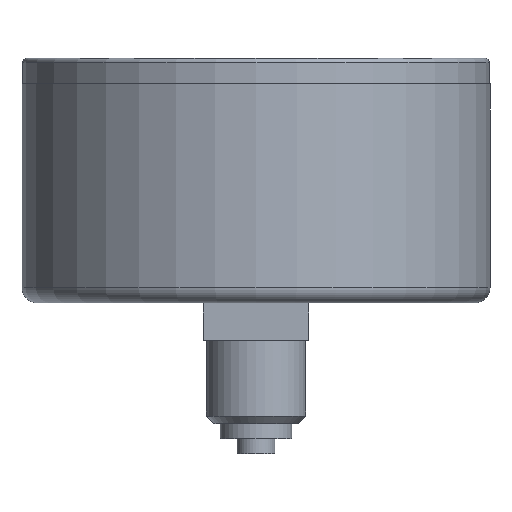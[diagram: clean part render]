
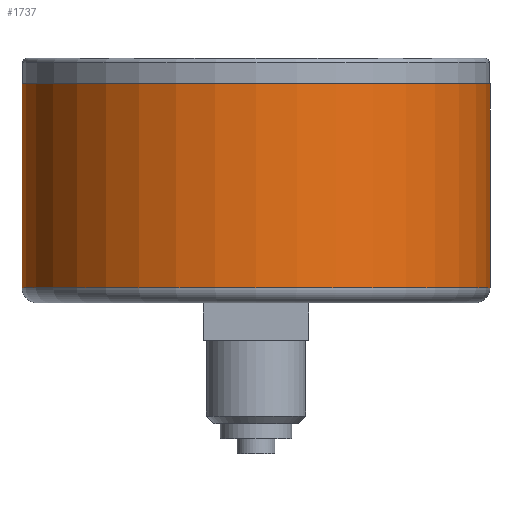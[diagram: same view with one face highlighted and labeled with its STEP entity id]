
A CAD part, front view. The second image highlights one B-rep face of the part: STEP entity #1737.
In plain terms, the highlighted cylindrical face has radius 31 mm (diameter 62 mm), a full revolution.
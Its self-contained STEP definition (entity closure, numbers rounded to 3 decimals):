
#39=CYLINDRICAL_SURFACE('',#1906,31.);
#141=FACE_OUTER_BOUND('',#245,.T.);
#245=EDGE_LOOP('',(#1527,#1528,#1529,#1530,#1531,#1532));
#304=CIRCLE('',#1901,31.);
#308=CIRCLE('',#1905,31.);
#309=CIRCLE('',#1907,31.);
#310=CIRCLE('',#1908,31.);
#492=LINE('',#2893,#670);
#670=VECTOR('',#2389,31.);
#825=VERTEX_POINT('',#2879);
#826=VERTEX_POINT('',#2880);
#829=VERTEX_POINT('',#2889);
#830=VERTEX_POINT('',#2890);
#1062=EDGE_CURVE('',#825,#826,#304,.T.);
#1066=EDGE_CURVE('',#826,#825,#308,.T.);
#1067=EDGE_CURVE('',#829,#830,#309,.T.);
#1068=EDGE_CURVE('',#830,#829,#310,.T.);
#1069=EDGE_CURVE('',#830,#826,#492,.T.);
#1527=ORIENTED_EDGE('',*,*,#1067,.F.);
#1528=ORIENTED_EDGE('',*,*,#1068,.F.);
#1529=ORIENTED_EDGE('',*,*,#1069,.T.);
#1530=ORIENTED_EDGE('',*,*,#1062,.F.);
#1531=ORIENTED_EDGE('',*,*,#1066,.F.);
#1532=ORIENTED_EDGE('',*,*,#1069,.F.);
#1737=ADVANCED_FACE('',(#141),#39,.T.);
#1901=AXIS2_PLACEMENT_3D('',#2881,#2373,#2374);
#1905=AXIS2_PLACEMENT_3D('',#2887,#2381,#2382);
#1906=AXIS2_PLACEMENT_3D('',#2888,#2383,#2384);
#1907=AXIS2_PLACEMENT_3D('',#2891,#2385,#2386);
#1908=AXIS2_PLACEMENT_3D('',#2892,#2387,#2388);
#2373=DIRECTION('center_axis',(0.,0.,-1.));
#2374=DIRECTION('ref_axis',(-1.,0.,0.));
#2381=DIRECTION('center_axis',(0.,0.,-1.));
#2382=DIRECTION('ref_axis',(-1.,0.,0.));
#2383=DIRECTION('center_axis',(0.,0.,1.));
#2384=DIRECTION('ref_axis',(1.,0.,0.));
#2385=DIRECTION('center_axis',(0.,0.,1.));
#2386=DIRECTION('ref_axis',(1.,0.,0.));
#2387=DIRECTION('center_axis',(0.,0.,1.));
#2388=DIRECTION('ref_axis',(1.,0.,0.));
#2389=DIRECTION('',(0.,0.,-1.));
#2879=CARTESIAN_POINT('',(31.,0.,2.));
#2880=CARTESIAN_POINT('',(-31.,0.,2.));
#2881=CARTESIAN_POINT('Origin',(0.,0.,2.));
#2887=CARTESIAN_POINT('Origin',(0.,0.,2.));
#2888=CARTESIAN_POINT('Origin',(0.,0.,0.));
#2889=CARTESIAN_POINT('',(31.,0.,29.));
#2890=CARTESIAN_POINT('',(-31.,0.,29.));
#2891=CARTESIAN_POINT('Origin',(0.,0.,29.));
#2892=CARTESIAN_POINT('Origin',(0.,0.,29.));
#2893=CARTESIAN_POINT('',(-31.,0.,0.));
